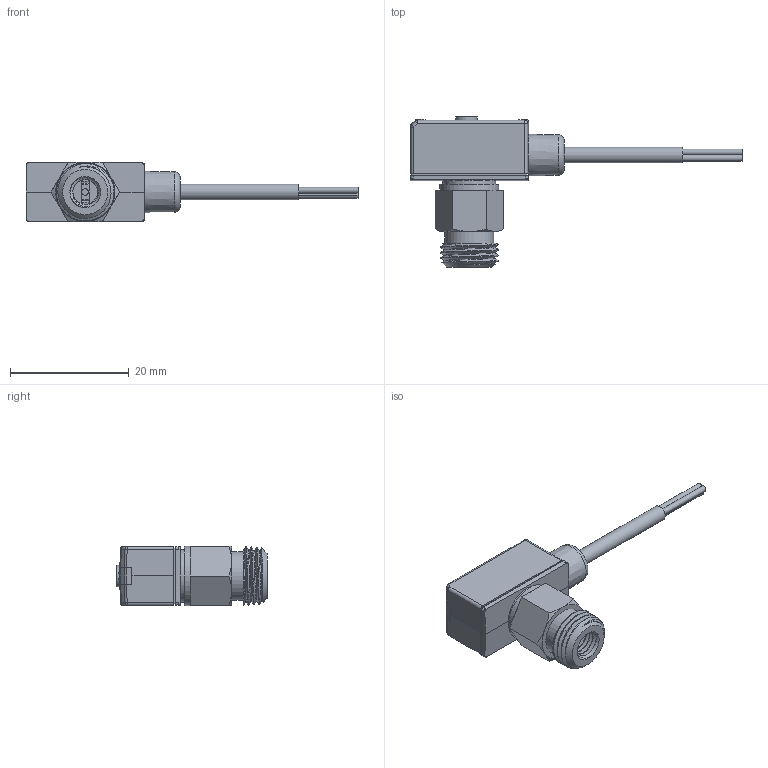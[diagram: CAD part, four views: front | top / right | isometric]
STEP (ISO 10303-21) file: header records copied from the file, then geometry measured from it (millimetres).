
FILE_DESCRIPTION(('STEP AP214'),'1');
FILE_NAME('82R-N(P)G.stp','2026-04-16T04:54:11',(' '),(' '),'Spatial InterOp 3D',' ',' ');
FILE_SCHEMA(('AUTOMOTIVE_DESIGN { 1 0 10303 214 1 1 1 1 }'));
Length unit declared in the file: millimetre
Products named in the file (4): MPS-※82R-N(P)G
Assembly tree (3 placements, depth 2):
  MPS-※82R-N(P)G
    MPS-※82R-N(P)G
    MPS-※82R-N(P)G
    MPS-※82R-N(P)G
Bounding box: 56 x 25.35 x 10 mm (x, y, z)
Volume: 2094.5 mm3; surface area: 4446.5 mm2
Topology: 2 solids, 8 shells, 599 faces, 1638 edges, 1071 vertices
Faces by surface type: plane 424, cylinder 112, cone 30, bspline 21, sphere 7, torus 5
Full cylindrical faces by diameter (mm): 1 x3, 1.1 x1, 2.5 x1, 2.6 x1, 2.7 x2, 3 x2, 3.8 x1, 4.6 x1, 4.7 x1, 5 x1, 5.05 x2, 5.1 x1, 5.985 x1, 6.2 x2, 7.15 x1, 8.2 x1, 9 x1, 10 x1
Entity records: 29577 total; most frequent: CARTESIAN_POINT 9970, ORIENTED_EDGE 3118, DIRECTION 2863, EDGE_CURVE 1570, LINE 1135, VECTOR 1135, VERTEX_POINT 1050, AXIS2_PLACEMENT_3D 864
